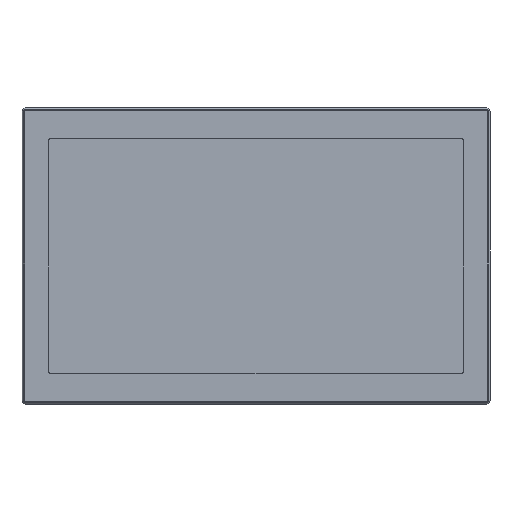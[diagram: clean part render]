
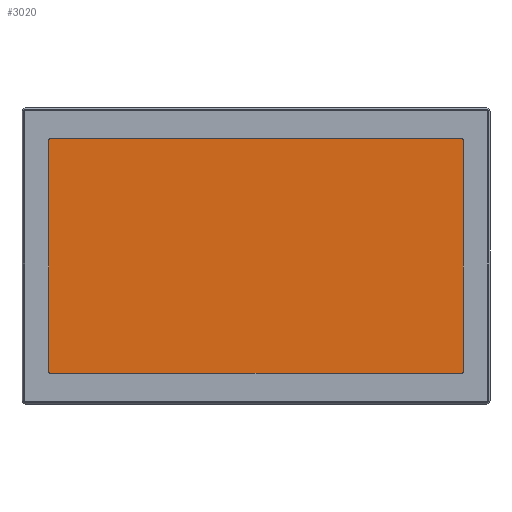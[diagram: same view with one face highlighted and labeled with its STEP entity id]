
A CAD part, top view. The second image highlights one B-rep face of the part: STEP entity #3020.
In plain terms, the highlighted planar face has unit normal (0, 0, 1).
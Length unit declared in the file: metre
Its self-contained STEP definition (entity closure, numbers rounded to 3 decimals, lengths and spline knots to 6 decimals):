
#3020=ADVANCED_FACE('2:505753',(#9416),#9417,.F.);
#9416=FACE_OUTER_BOUND('',#19438,.T.);
#9417=PLANE('',#19439);
#19438=EDGE_LOOP('',(#45047,#45048,#45049,#45050,#45051,#45052,#45053,#45054));
#19439=AXIS2_PLACEMENT_3D('',#45055,#45056,#45057);
#45047=ORIENTED_EDGE('',*,*,#55531,.T.);
#45048=ORIENTED_EDGE('',*,*,#55532,.T.);
#45049=ORIENTED_EDGE('',*,*,#55533,.T.);
#45050=ORIENTED_EDGE('',*,*,#55534,.T.);
#45051=ORIENTED_EDGE('',*,*,#55535,.T.);
#45052=ORIENTED_EDGE('',*,*,#55536,.T.);
#45053=ORIENTED_EDGE('',*,*,#55537,.T.);
#45054=ORIENTED_EDGE('',*,*,#55538,.T.);
#45055=CARTESIAN_POINT('',(0.4362,0.2618,0.066125));
#45056=DIRECTION('',(0.0,0.0,-1.0));
#45057=DIRECTION('',(0.0,-1.0,0.0));
#55531=EDGE_CURVE('2:528739',#69312,#69313,#69314,.T.);
#55532=EDGE_CURVE('2:528742',#69313,#69315,#69316,.T.);
#55533=EDGE_CURVE('2:528745',#69315,#69317,#69318,.T.);
#55534=EDGE_CURVE('2:528748',#69317,#69319,#69320,.T.);
#55535=EDGE_CURVE('2:528751',#69319,#69321,#69322,.T.);
#55536=EDGE_CURVE('2:528754',#69321,#69323,#69324,.T.);
#55537=EDGE_CURVE('2:528757',#69323,#69325,#69326,.T.);
#55538=EDGE_CURVE('2:528760',#69325,#69312,#69327,.T.);
#69312=VERTEX_POINT('',#96879);
#69313=VERTEX_POINT('',#96880);
#69314=LINE('',#96881,#96882);
#69315=VERTEX_POINT('',#96883);
#69316=CIRCLE('',#96884,0.001);
#69317=VERTEX_POINT('',#96885);
#69318=LINE('',#96886,#96887);
#69319=VERTEX_POINT('',#96888);
#69320=CIRCLE('',#96889,0.001);
#69321=VERTEX_POINT('',#96890);
#69322=LINE('',#96891,#96892);
#69323=VERTEX_POINT('',#96893);
#69324=CIRCLE('',#96894,0.001);
#69325=VERTEX_POINT('',#96895);
#69326=LINE('',#96896,#96897);
#69327=CIRCLE('',#96898,0.001);
#96879=CARTESIAN_POINT('',(0.4362,0.2628,0.066125));
#96880=CARTESIAN_POINT('',(0.0274,0.2628,0.066125));
#96881=CARTESIAN_POINT('',(0.0274,0.2628,0.066125));
#96882=VECTOR('',#108768,0.001);
#96883=CARTESIAN_POINT('',(0.0264,0.2618,0.066125));
#96884=AXIS2_PLACEMENT_3D('',#108769,#108770,#108771);
#96885=CARTESIAN_POINT('',(0.0264,0.0318,0.066125));
#96886=CARTESIAN_POINT('',(0.0264,0.2618,0.066125));
#96887=VECTOR('',#108772,0.001);
#96888=CARTESIAN_POINT('',(0.0274,0.0308,0.066125));
#96889=AXIS2_PLACEMENT_3D('',#108773,#108774,#108775);
#96890=CARTESIAN_POINT('',(0.4362,0.0308,0.066125));
#96891=CARTESIAN_POINT('',(0.0274,0.0308,0.066125));
#96892=VECTOR('',#108776,0.001);
#96893=CARTESIAN_POINT('',(0.4372,0.0318,0.066125));
#96894=AXIS2_PLACEMENT_3D('',#108777,#108778,#108779);
#96895=CARTESIAN_POINT('',(0.4372,0.2618,0.066125));
#96896=CARTESIAN_POINT('',(0.4372,0.2618,0.066125));
#96897=VECTOR('',#108780,0.001);
#96898=AXIS2_PLACEMENT_3D('',#108781,#108782,#108783);
#108768=DIRECTION('',(-1.0,0.,0.0));
#108769=CARTESIAN_POINT('',(0.0274,0.2618,0.066125));
#108770=DIRECTION('',(0.0,0.0,1.0));
#108771=DIRECTION('',(1.0,0.0,0.0));
#108772=DIRECTION('',(0.,-1.0,0.0));
#108773=CARTESIAN_POINT('',(0.0274,0.0318,0.066125));
#108774=DIRECTION('',(0.0,0.0,1.0));
#108775=DIRECTION('',(1.0,0.0,0.0));
#108776=DIRECTION('',(1.0,0.,0.0));
#108777=CARTESIAN_POINT('',(0.4362,0.0318,0.066125));
#108778=DIRECTION('',(0.0,0.0,1.0));
#108779=DIRECTION('',(1.0,0.0,0.0));
#108780=DIRECTION('',(0.0,1.0,0.0));
#108781=CARTESIAN_POINT('',(0.4362,0.2618,0.066125));
#108782=DIRECTION('',(0.0,0.0,1.0));
#108783=DIRECTION('',(1.0,0.0,0.0));
